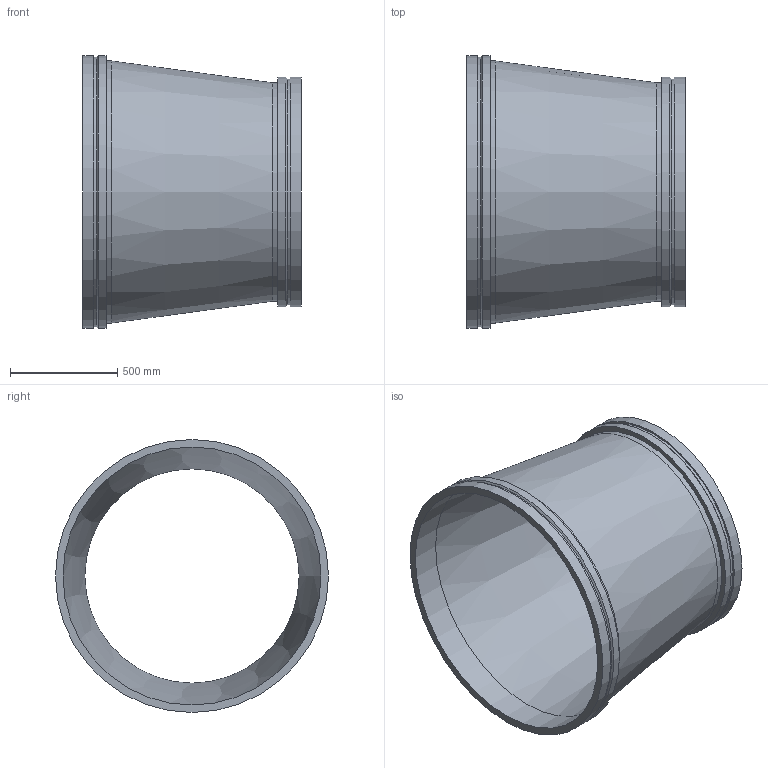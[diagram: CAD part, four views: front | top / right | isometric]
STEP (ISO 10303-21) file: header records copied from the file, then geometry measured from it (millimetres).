
FILE_DESCRIPTION(/* description */ ('VIC REDUCER CONCENTRIC No W50 VR','CAx-IF Rec.Pracs.---Representation and Presentation of Product Manufacturing Information (PMI)---4.0---2014-10-13'),/* implementation_level */ '2;1');
FILE_NAME(/* name */ 'C:\Users\kkamble\AppData\Roaming\Autodesk\ApplicationPlugins\Back Up\Victaulic_Vic-Ring_Reducer Concentric_No W50 VR (AGR)\Victaulic_Vic-Ring_Reducer Concentric_No W50 VR (AGR)_48.0x40.0 (1200x1000).stp',/* time_stamp */ '2020-09-10T11:47:57+05:00',/* author */ ('cps_temp'),/* organization */ ('Victaulic'),/* preprocessor_version */ 'ST-DEVELOPER v17.2',/* originating_system */ 'Autodesk Inventor 2019',/* authorisation */ '');
FILE_SCHEMA (('AP242_MANAGED_MODEL_BASED_3D_ENGINEERING_MIM_LF { 1 0 10303 442 1 1 4 }'));
Length unit declared in the file: inch
Products named in the file (1): W50 VR-48.0x40.0
Bounding box: 1016 x 1270 x 1270 mm (x, y, z)
Volume: 52360523.3 mm3; surface area: 7670082.9 mm2
Topology: 1 solids, 1 shells, 20 faces, 54 edges, 40 vertices
Faces by surface type: cylinder 10, plane 6, cone 4
Full cylindrical faces by diameter (mm): 996.95 x1, 1016 x1, 1050.925 x1, 1066.8 x2, 1200.15 x1, 1219.2 x1, 1254.125 x1, 1270 x2
Entity records: 830 total; most frequent: DIRECTION 162, CARTESIAN_POINT 132, ORIENTED_EDGE 108, AXIS2_PLACEMENT_3D 74, EDGE_CURVE 54, CIRCLE 40, VERTEX_POINT 40, EDGE_LOOP 26
